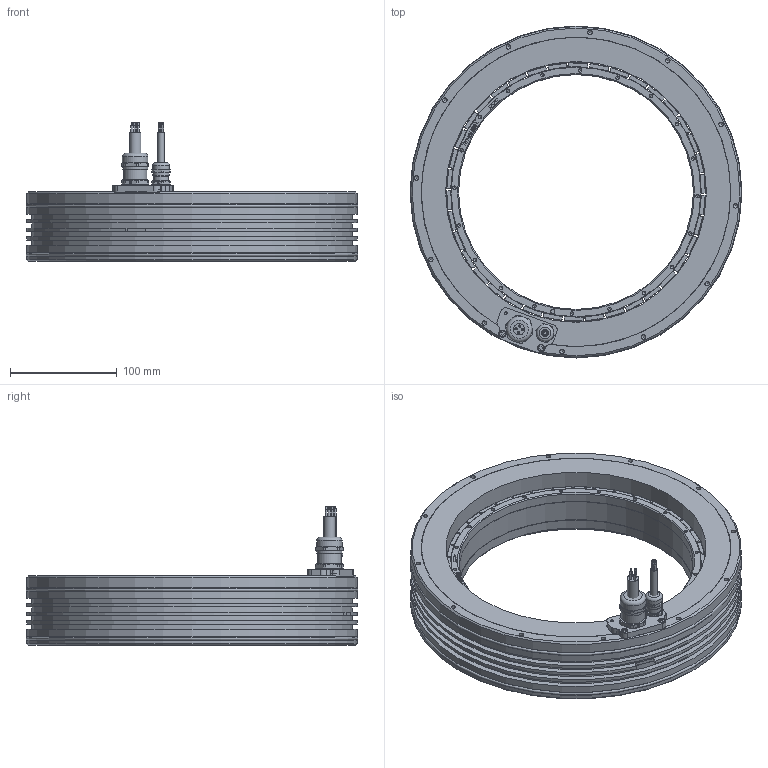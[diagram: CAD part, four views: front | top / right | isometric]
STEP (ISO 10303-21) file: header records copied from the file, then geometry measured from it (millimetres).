
FILE_DESCRIPTION(/* description */ ('QTL-310-105 KIT'),/* implementation_level */ '2;1');
FILE_NAME(/* name */ 'Torque_QTL_310_65_N_Kit_CAD_190320',/* time_stamp */ '2019-03-20T11:02:52+01:00',/* author */ ('MTE'),/* organization */ ('TECNOTION'),/* preprocessor_version */ 'ST-DEVELOPER v16.7',/* originating_system */ 'DEX',/* authorisation */ $);
FILE_SCHEMA (('AUTOMOTIVE_DESIGN {1 0 10303 214 3 1 1}'));
Length unit declared in the file: millimetre
Products named in the file (2): Torque_QTL_310_65_N_Kit_CAD_190320
Assembly tree (1 placements, depth 2):
  Torque_QTL_310_65_N_Kit_CAD_190320
    Torque_QTL_310_65_N_Kit_CAD_190320
Bounding box: 311 x 311 x 130 mm (x, y, z)
Volume: 2077110.9 mm3; surface area: 510541.3 mm2
Topology: 51 solids, 51 shells, 1719 faces, 3981 edges, 2129 vertices
Faces by surface type: cylinder 653, plane 611, sphere 304, cone 132, bspline 12, torus 7
Full cylindrical faces by diameter (mm): 1.35 x6, 1.5 x6, 1.598 x4, 2 x4, 2.459 x3, 3 x3, 3.2 x2, 3.242 x40, 3.5 x1, 4 x2, 4.134 x24, 5.5 x2, 6.4 x1, 6.5 x2, 7 x1, 8.136 x1, 10.16 x1, 10.376 x1, 10.6 x1, 12 x1, 14 x1, 14.536 x1, 15.68 x1, 15.98 x1, 18.16 x1, 18.376 x1, 20 x1, 22 x1, 23.52 x1, 23.98 x1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
Entity records: 47318 total; most frequent: CARTESIAN_POINT 8687, DIRECTION 7588, ORIENTED_EDGE 6576, EDGE_CURVE 3288, AXIS2_PLACEMENT_3D 3095, FACE_BOUND 2100, VERTEX_POINT 2040, EDGE_LOOP 2032
